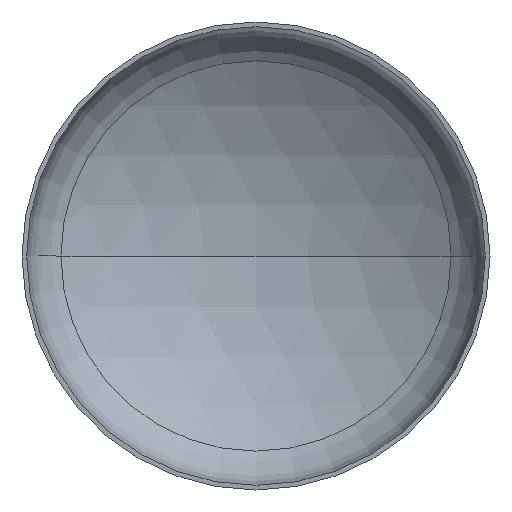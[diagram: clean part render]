
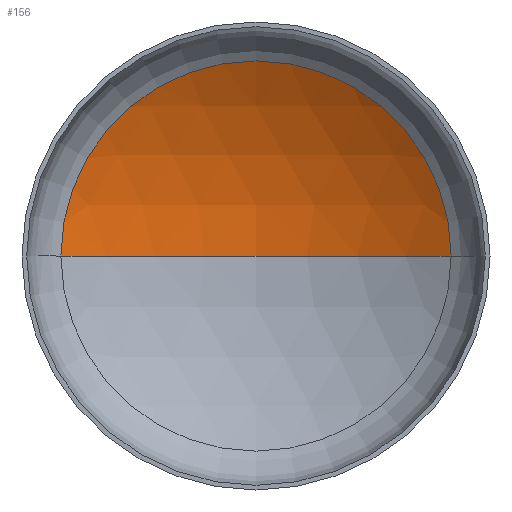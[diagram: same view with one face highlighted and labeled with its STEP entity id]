
A CAD part, front view. The second image highlights one B-rep face of the part: STEP entity #156.
In plain terms, the highlighted spherical face has radius 1520 mm.
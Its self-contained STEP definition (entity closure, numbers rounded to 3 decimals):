
#1 = AXIS2_PLACEMENT_3D ( 'NONE', #250, #81, #342 ) ;
#14 = AXIS2_PLACEMENT_3D ( 'NONE', #121, #117, #119 ) ;
#32 = AXIS2_PLACEMENT_3D ( 'NONE', #145, #151, #241 ) ;
#36 = VERTEX_POINT ( 'NONE', #258 ) ;
#64 = VERTEX_POINT ( 'NONE', #318 ) ;
#71 = ORIENTED_EDGE ( 'NONE', *, *, #375, .F. ) ;
#73 = FACE_OUTER_BOUND ( 'NONE', #352, .T. ) ;
#81 = DIRECTION ( 'NONE',  ( 0., 0., 1. ) ) ;
#105 = DIRECTION ( 'NONE',  ( 0., 0., -1. ) ) ;
#117 = DIRECTION ( 'NONE',  ( 0., -1., 0. ) ) ;
#119 = DIRECTION ( 'NONE',  ( 1., 0., 0. ) ) ;
#121 = CARTESIAN_POINT ( 'NONE',  ( 0., 307.507, 0. ) ) ;
#145 = CARTESIAN_POINT ( 'NONE',  ( 0., -989.771, 0. ) ) ;
#151 = DIRECTION ( 'NONE',  ( 0., 0., -1. ) ) ;
#156 = ADVANCED_FACE ( 'NONE', ( #73 ), #372, .F. ) ;
#169 = VERTEX_POINT ( 'NONE', #177 ) ;
#177 = CARTESIAN_POINT ( 'NONE',  ( -792.13, 307.507, 0. ) ) ;
#193 = CIRCLE ( 'NONE', #14, 792.13 ) ;
#196 = AXIS2_PLACEMENT_3D ( 'NONE', #366, #105, #308 ) ;
#241 = DIRECTION ( 'NONE',  ( -1., 0., 0. ) ) ;
#250 = CARTESIAN_POINT ( 'NONE',  ( 0., -989.771, 0. ) ) ;
#258 = CARTESIAN_POINT ( 'NONE',  ( 792.13, 307.507, 0. ) ) ;
#303 = ORIENTED_EDGE ( 'NONE', *, *, #377, .T. ) ;
#308 = DIRECTION ( 'NONE',  ( -1., 0., 0. ) ) ;
#318 = CARTESIAN_POINT ( 'NONE',  ( 0., 530.229, 0. ) ) ;
#319 = CIRCLE ( 'NONE', #196, 1520. ) ;
#321 = EDGE_CURVE ( 'NONE', #36, #169, #193, .T. ) ;
#342 = DIRECTION ( 'NONE',  ( 1., 0., 0. ) ) ;
#352 = EDGE_LOOP ( 'NONE', ( #71, #303, #408 ) ) ;
#366 = CARTESIAN_POINT ( 'NONE',  ( 0., -989.771, 0. ) ) ;
#372 = SPHERICAL_SURFACE ( 'NONE', #32, 1520. ) ;
#375 = EDGE_CURVE ( 'NONE', #64, #169, #393, .T. ) ;
#377 = EDGE_CURVE ( 'NONE', #64, #36, #319, .T. ) ;
#393 = CIRCLE ( 'NONE', #1, 1520. ) ;
#408 = ORIENTED_EDGE ( 'NONE', *, *, #321, .T. ) ;
